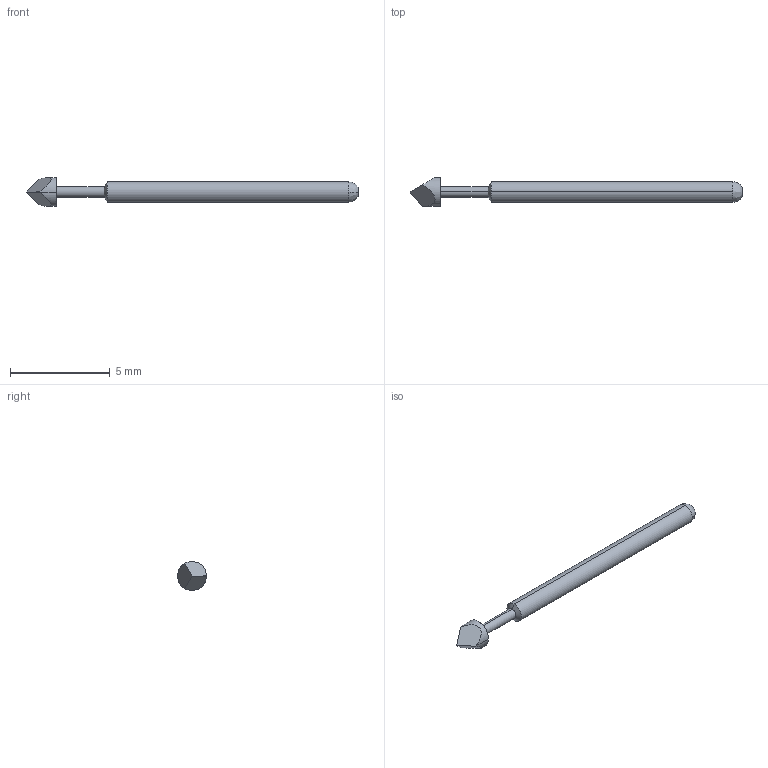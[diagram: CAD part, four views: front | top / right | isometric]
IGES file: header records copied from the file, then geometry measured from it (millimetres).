
Start section: SolidWorks IGES file using analytic representation for surfaces
Global section: file name: F:\OneDrive\Desktop\Coda\24.8\PA2 series RTP\CAD Files\PA2T.IGS; native system: SolidWorks 2021; preprocessor: SolidWorks 2021; author: Georg; date: 210825.125219; units: inch
Bounding box: 16.64 x 1.45 x 1.45 mm (x, y, z)
Surface area: 51.9 mm2 (no closed solid volume)
Topology: 0 solids, 0 shells, 15 faces, 144 edges, 144 vertices
Faces by surface type: revolution 8, bspline 7
